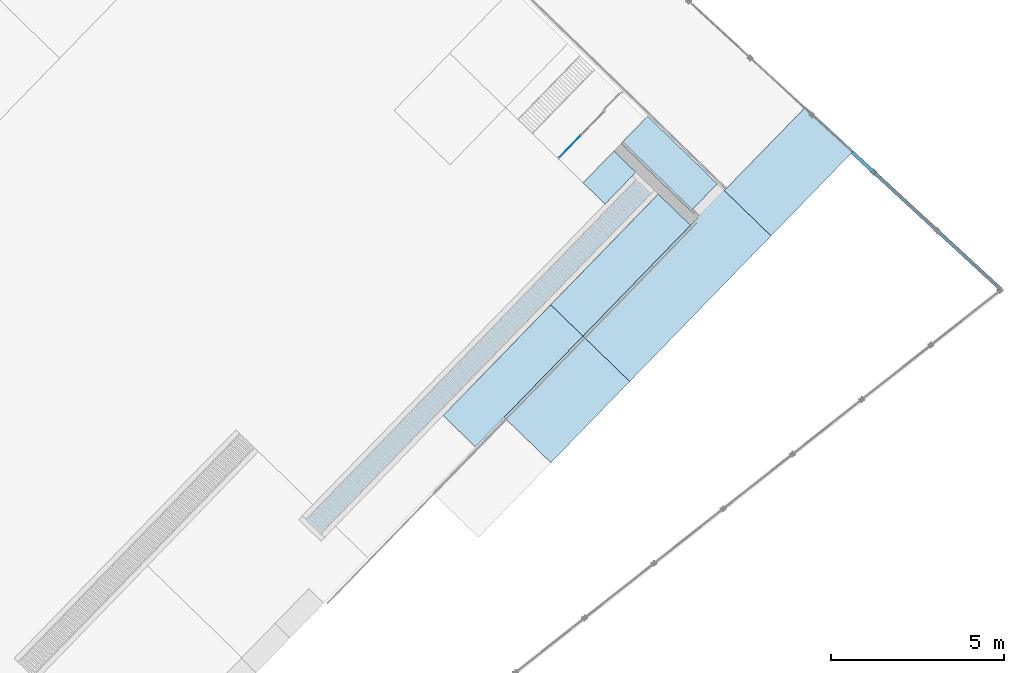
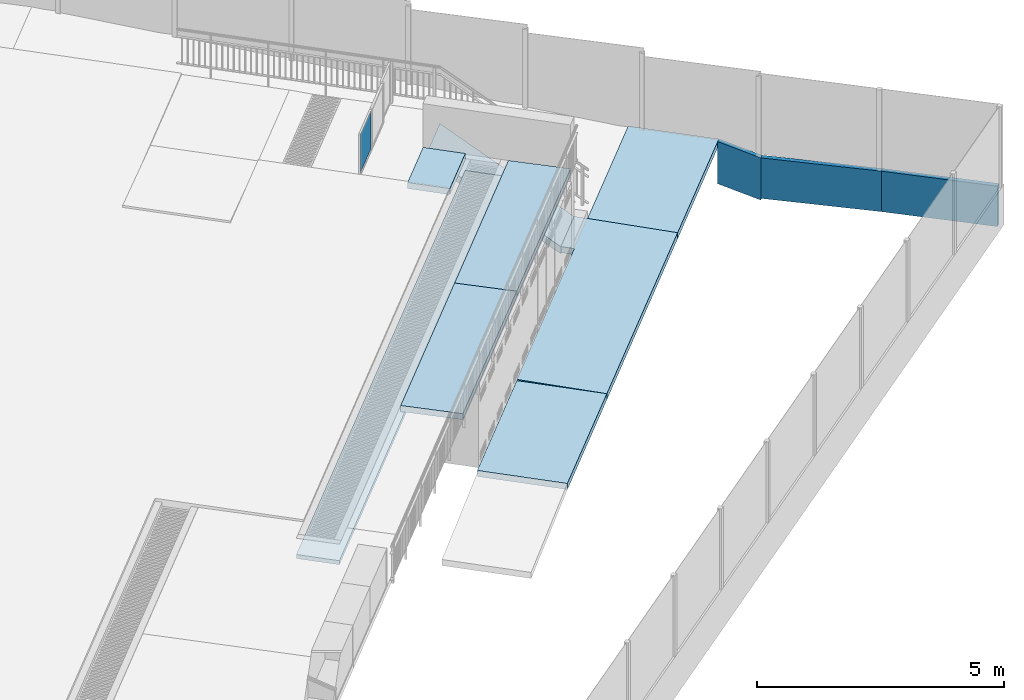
# One storey, part 17 of 37: 11 slabs, 1 plate, 1 element without a shape of its own.
"""IFC2X3 building model written with IfcOpenShell, lengths in centimetres."""

from ifc_helpers import new_model, entity, si_unit, converted_unit, derived_unit, direction, frame, frame_2d, origin, origin_2d_with_axis, place, context, subcontext, project, spatial, polyline, rectangle, outline, extrude, source, transform, mapped, material, layer, layer_set, layer_usage, type_object, type_shapes, element, aggregate, save


model = new_model("IFC2X3")

# Units and contexts
model_context = context("Model", 3, precision=0.001, world=origin(), true_north=direction((0.717475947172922, 0.696583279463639)))
body_context = subcontext(model_context, "Body", "Model", "MODEL_VIEW")
ifc_project = project(units=[si_unit("LENGTHUNIT", "METRE", prefix="CENTI"), si_unit("AREAUNIT", "SQUARE_METRE"), si_unit("VOLUMEUNIT", "CUBIC_METRE"), converted_unit("PLANEANGLEUNIT", "DEGREE", entity("IfcRatioMeasure", 0.0174532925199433), si_unit("PLANEANGLEUNIT", "RADIAN"), dimensions=[0, 0, 0, 0, 0, 0, 0]), si_unit("MASSUNIT", "GRAM", prefix="KILO"), derived_unit("MASSDENSITYUNIT", [(si_unit("MASSUNIT", "GRAM", prefix="KILO"), 1), (si_unit("LENGTHUNIT", "METRE"), -3)]), si_unit("TIMEUNIT", "SECOND"), si_unit("FREQUENCYUNIT", "HERTZ"), si_unit("THERMODYNAMICTEMPERATUREUNIT", "DEGREE_CELSIUS"), derived_unit("THERMALTRANSMITTANCEUNIT", [(si_unit("MASSUNIT", "GRAM", prefix="KILO"), 1), (si_unit("THERMODYNAMICTEMPERATUREUNIT", "KELVIN"), -1), (si_unit("TIMEUNIT", "SECOND"), -3)]), derived_unit("VOLUMETRICFLOWRATEUNIT", [(si_unit("LENGTHUNIT", "METRE"), 3), (si_unit("TIMEUNIT", "SECOND"), -1)]), si_unit("ELECTRICCURRENTUNIT", "AMPERE"), si_unit("ELECTRICVOLTAGEUNIT", "VOLT"), si_unit("POWERUNIT", "WATT"), si_unit("FORCEUNIT", "NEWTON", prefix="KILO"), si_unit("ILLUMINANCEUNIT", "LUX"), si_unit("LUMINOUSFLUXUNIT", "LUMEN"), si_unit("LUMINOUSINTENSITYUNIT", "CANDELA"), derived_unit("USERDEFINED", [(si_unit("MASSUNIT", "GRAM", prefix="KILO"), -1), (si_unit("LENGTHUNIT", "METRE"), -2), (si_unit("TIMEUNIT", "SECOND"), 3), (si_unit("LUMINOUSFLUXUNIT", "LUMEN"), 1)]), derived_unit("LINEARVELOCITYUNIT", [(si_unit("LENGTHUNIT", "METRE"), 1), (si_unit("TIMEUNIT", "SECOND"), -1)]), si_unit("PRESSUREUNIT", "PASCAL"), derived_unit("USERDEFINED", [(si_unit("LENGTHUNIT", "METRE"), -2), (si_unit("MASSUNIT", "GRAM", prefix="KILO"), 1), (si_unit("TIMEUNIT", "SECOND"), -2)])], contexts=[model_context])

# Site, building, storey
site_placement = place(None, frame((0.0, 0.0, 0.0), z_axis=(0.0, 0.0, 1.0), x_axis=(0.696583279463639, 0.717475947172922, 0.0)))
site = spatial("IfcSite", under=ifc_project, at=site_placement, Name="Surface", CompositionType="ELEMENT")
building_placement = place(site_placement, origin())
building = spatial("IfcBuilding", under=site, at=building_placement, CompositionType="ELEMENT")
storey_placement = place(building_placement, origin())
storey = spatial("IfcBuildingStorey", under=building, at=storey_placement, Name="Nivel 0.00", CompositionType="ELEMENT", Elevation=0.0)

# Curtain wall, plate
curtain_wall_type = type_object("IfcCurtainWallType", Name="Curtain Wall:REJA_BAJA_100mm", PredefinedType="NOTDEFINED")
curtain_wall_placement = place(storey_placement, origin())
curtain_wall = element("IfcCurtainWall", 1, at=curtain_wall_placement, inside=storey, type_object=curtain_wall_type, Name="Curtain Wall:REJA_BAJA_100mm", ObjectType="Curtain Wall:REJA_BAJA_100mm")
ifc_material_1 = material(Name="REJA_MALLA_ACMA")
plate_type = type_object("IfcPlateType", Name="MALLA ACMA", PredefinedType="CURTAIN_PANEL", material=ifc_material_1)
shared_shape = source(origin(), body_context, "Body", "SweptSolid", [
    extrude(rectangle(XDim=1.0, YDim=87.66747023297, at=origin_2d_with_axis()), frame((0.0, 0.0, 0.0), z_axis=(0.0, 0.0, 1.0), x_axis=(0.0, 1.0, 0.0)), (0.0, 0.0, 1.0), 94.0),
])
type_shapes(plate_type, [shared_shape])
plate_placement = place(curtain_wall_placement, frame((1581.38389901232, -1156.74407068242, 155.0), z_axis=(0.0, 0.0, 1.0), x_axis=(-1.0, 0.0, 0.0)))
plate = element("IfcPlate", 2, at=plate_placement, type_object=plate_type, material=ifc_material_1, Name="System Panel:MALLA ACMA", ObjectType="MALLA ACMA", context=body_context, shape_type="MappedRepresentation", body=[
    mapped(shared_shape, transform((0.0, 0.0, 0.0), scale=1.0)),
])
aggregate(curtain_wall, [plate])

# Slabs
ifc_material_2 = material(Name="<Unnamed>")
ifc_layer_1 = layer(ifc_material_2, 15.0)
ifc_layer_set_1 = layer_set([ifc_layer_1], Name="Pad:HORMIGON_EXTERIOR_150mm")
ifc_layer_usage_1 = layer_usage(ifc_layer_set_1, "AXIS3", "POSITIVE", 0.0)
slab_1_placement = place(storey_placement, frame((768.682598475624, -1565.30159447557, 134.998209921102)))
element("IfcSlab", 3, at=slab_1_placement, inside=storey, material=ifc_layer_usage_1, Name="Pad:HORMIGON_EXTERIOR_150mm", ObjectType="Pad:HORMIGON_EXTERIOR_150mm", PredefinedType="FLOOR", context=body_context, shape_type="SweptSolid", body=[
    extrude(rectangle(XDim=445.934909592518, YDim=129.850802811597, at=frame_2d((0.0, -64.9254014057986), x_axis=(-1.0, 0.0))), frame((222.967454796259, 129.835399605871, 15.001779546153), z_axis=(0.0, 0.0154022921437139, 0.99988137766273), x_axis=(1.0, 0.0, 0.0)), (0.0, 0.0154022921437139, -0.99988137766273), 15.001779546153),
])
ifc_layer_usage_2 = layer_usage(ifc_layer_set_1, "AXIS3", "POSITIVE", 0.0)
slab_2_placement = place(storey_placement, frame((1214.61750806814, -1565.30159447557, 134.998209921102)))
element("IfcSlab", 4, at=slab_2_placement, inside=storey, material=ifc_layer_usage_2, Name="Pad:HORMIGON_EXTERIOR_150mm", ObjectType="Pad:HORMIGON_EXTERIOR_150mm", PredefinedType="FLOOR", context=body_context, shape_type="SweptSolid", body=[
    extrude(rectangle(XDim=445.934908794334, YDim=129.850802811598, at=frame_2d((0.0, -64.9254014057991), x_axis=(-1.0, 0.0))), frame((222.967454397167, 129.835399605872, 15.001779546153), z_axis=(0.0, 0.0154022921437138, 0.99988137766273), x_axis=(1.0, 0.0, 0.0)), (0.0, 0.0154022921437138, -0.99988137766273), 15.001779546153),
])
ifc_layer_usage_3 = layer_usage(ifc_layer_set_1, "AXIS3", "POSITIVE", 0.0)
slab_3_placement = place(storey_placement, origin())
element("IfcSlab", 5, at=slab_3_placement, inside=storey, material=ifc_layer_usage_3, Name="Pad:HORMIGON_EXTERIOR_150mm", ObjectType="Pad:HORMIGON_EXTERIOR_150mm", PredefinedType="FLOOR", context=body_context, shape_type="SweptSolid", body=[
    extrude(rectangle(XDim=188.065472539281, YDim=326.856553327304, at=frame_2d((-2.1316282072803e-13, -5.6843418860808e-14), x_axis=(1.0, 0.0))), frame((1051.18923154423, -1659.33433074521, -84.0000105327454), z_axis=(0.0, 0.0, 1.0), x_axis=(0.0, 1.0, 0.0)), (0.0, 0.0, 1.0), 15.0),
])
ifc_layer_usage_4 = layer_usage(ifc_layer_set_1, "AXIS3", "POSITIVE", 0.0)
slab_4_placement = place(storey_placement, frame((1214.61750806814, -1753.3633159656, -84.0019189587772)))
element("IfcSlab", 6, at=slab_4_placement, inside=storey, material=ifc_layer_usage_4, Name="Pad:HORMIGON_EXTERIOR_150mm", ObjectType="Pad:HORMIGON_EXTERIOR_150mm", PredefinedType="FLOOR", context=body_context, shape_type="SweptSolid", body=[
    extrude(outline(polyline([(-305.936453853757, -188.085648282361), (280.0, -188.085648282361), (280.0, 27.9667246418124), (169.998571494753, 27.9667246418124), (169.998571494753, 0.0), (-305.936453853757, 0.0), (-305.936453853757, -188.085648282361)])), frame((305.936453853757, 188.061721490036, 18.0019084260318), z_axis=(0.0, -0.0159501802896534, 0.99987278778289), x_axis=(1.0, 0.0, 0.0)), (0.0, -0.0159501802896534, -0.99987278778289), 15.0019084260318),
])
ifc_layer_usage_5 = layer_usage(ifc_layer_set_1, "AXIS3", "POSITIVE", 0.0)
slab_5_placement = place(storey_placement, frame((1800.5539619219, -1753.3633159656, -84.0019190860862)))
element("IfcSlab", 7, at=slab_5_placement, inside=storey, material=ifc_layer_usage_5, Name="Pad:HORMIGON_EXTERIOR_150mm", ObjectType="Pad:HORMIGON_EXTERIOR_150mm", PredefinedType="FLOOR", context=body_context, shape_type="SweptSolid", body=[
    extrude(outline(polyline([(-160.838410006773, 0.0), (-160.838410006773, -188.079376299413), (180.693107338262, -188.079376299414), (175.843397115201, 0.0), (-160.838410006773, 0.0)])), frame((160.838410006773, 188.055448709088, 18.0019085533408), z_axis=(0.0, -0.0159507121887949, 0.999872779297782), x_axis=(1.0, 0.0, 0.0)), (0.0, -0.0159507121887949, -0.999872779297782), 15.0019085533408),
])
ifc_layer_usage_6 = layer_usage(ifc_layer_set_1, "AXIS3", "POSITIVE", 0.0)
slab_6_placement = place(storey_placement, origin())
element("IfcSlab", 8, at=slab_6_placement, inside=storey, material=ifc_layer_usage_6, Name="Pad:HORMIGON_EXTERIOR_150mm", ObjectType="Pad:HORMIGON_EXTERIOR_150mm", PredefinedType="FLOOR", context=body_context, shape_type="SweptSolid", body=[
    extrude(rectangle(XDim=128.002352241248, YDim=88.1586279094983, at=origin_2d_with_axis()), frame((1596.55134001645, -1301.38718120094, 136.999989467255)), (0.0, 0.0, 1.0), 15.0),
])
ifc_layer_usage_7 = layer_usage(ifc_layer_set_1, "AXIS3", "POSITIVE", 0.0)
slab_7_placement = place(storey_placement, frame((1690.55253341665, -1537.3384275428, -83.8805717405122)))
element("IfcSlab", 9, at=slab_7_placement, inside=storey, material=ifc_layer_usage_7, Name="Pad:HORMIGON_EXTERIOR_150mm", ObjectType="Pad:HORMIGON_EXTERIOR_150mm", PredefinedType="FLOOR", context=body_context, shape_type="SweptSolid", body=[
    extrude(rectangle(XDim=110.000029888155, YDim=334.296318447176, at=frame_2d((0.0, -167.148159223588), x_axis=(-1.0, 0.0))), frame((55.0000149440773, 0.0, 17.8805717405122), z_axis=(0.0, 0.544286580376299, -0.838899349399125), x_axis=(1.0, 0.0, 0.0)), (0.0, 0.544286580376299, 0.838899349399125), 17.8805717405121),
])
ifc_material_3 = material(Name="Concrete, Precast")
ifc_layer_2 = layer(ifc_material_3, 10.0)
ifc_layer_set_2 = layer_set([ifc_layer_2], Name="Floor:ARQ_LOSA_HOMRIGON_100mm")
ifc_layer_usage_8 = layer_usage(ifc_layer_set_2, "AXIS3", "POSITIVE", 0.0)
slab_8_placement = place(storey_placement, origin())
element("IfcSlab", 10, at=slab_8_placement, inside=storey, material=ifc_layer_usage_8, Name="Floor:ARQ_LOSA_HOMRIGON_100mm", ObjectType="Floor:ARQ_LOSA_HOMRIGON_100mm", PredefinedType="FLOOR", context=body_context, shape_type="SweptSolid", body=[
    extrude(rectangle(XDim=89.9911465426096, YDim=1397.80407940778, at=origin_2d_with_axis()), frame((961.650465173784, -1390.05043052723, 110.0), z_axis=(0.0, 0.0, -1.0), x_axis=(0.0, 1.0, 0.0)), (0.0, 0.0, 1.0), 10.0),
])
ifc_material_4 = material(Name="Concrete, Cast-in-Place gray")
ifc_layer_3 = layer(ifc_material_4, 100.0)
ifc_layer_set_3 = layer_set([ifc_layer_3], Name="Pad:HORMIGON_M.CONTEN_1000mm")
ifc_layer_usage_9 = layer_usage(ifc_layer_set_3, "AXIS3", "POSITIVE", 0.0)
slab_9_placement = place(storey_placement, frame((2132.08215452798, -1842.92730672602, -199.927463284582)))
element("IfcSlab", 11, at=slab_9_placement, inside=storey, material=ifc_layer_usage_9, Name="Pad:HORMIGON_M.CONTEN_1000mm", ObjectType="Pad:HORMIGON_M.CONTEN_1000mm", PredefinedType="FLOOR", context=body_context, shape_type="SweptSolid", body=[
    extrude(outline(polyline([(10.0033247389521, 0.0), (0.0, 0.0), (2.30974111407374, -93.4334016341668), (12.3064174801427, -93.1644623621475), (10.0033247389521, 0.0)])), frame((0.0, 89.5639907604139, 130.927463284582), z_axis=(0.0, -0.284801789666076, 0.958586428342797), x_axis=(1.0, 0.0, 0.0)), (0.0, -0.284801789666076, -0.958586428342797), 104.320275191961),
])
ifc_layer_usage_10 = layer_usage(ifc_layer_set_3, "AXIS3", "POSITIVE", 0.0)
slab_10_placement = place(storey_placement, frame((2134.39189564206, -2092.7258540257, -195.635198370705)))
element("IfcSlab", 12, at=slab_10_placement, inside=storey, material=ifc_layer_usage_10, Name="Pad:HORMIGON_M.CONTEN_1000mm", ObjectType="Pad:HORMIGON_M.CONTEN_1000mm", PredefinedType="FLOOR", context=body_context, shape_type="SweptSolid", body=[
    extrude(rectangle(XDim=10.0000016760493, YDim=249.944564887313, at=frame_2d((-8.21933118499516, -124.801833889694), x_axis=(-0.999667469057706, 0.0257866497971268))), frame((16.4386623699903, 0.257801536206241, 105.635198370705), z_axis=(0.0, -0.0224524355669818, -0.99974791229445), x_axis=(1.0, 0.0, 0.0)), (0.0, -0.0224524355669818, 0.99974791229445), 100.025215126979),
])
ifc_layer_usage_11 = layer_usage(ifc_layer_set_3, "AXIS3", "POSITIVE", 0.0)
slab_11_placement = place(storey_placement, origin())
element("IfcSlab", 13, at=slab_11_placement, inside=storey, material=ifc_layer_usage_11, Name="Pad:HORMIGON_M.CONTEN_1000mm", ObjectType="Pad:HORMIGON_M.CONTEN_1000mm", PredefinedType="FLOOR", context=body_context, shape_type="SweptSolid", body=[
    extrude(outline(polyline([(-5.0, -120.69184477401), (5.0, -120.69184477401), (5.0, 119.893281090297), (-5.0, 121.490408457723), (-5.0, -120.69184477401)])), frame((2148.94367412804, -2213.24868448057, -190.0), z_axis=(0.0, 0.0, 1.0), x_axis=(-0.999667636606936, -0.025780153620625, 0.0)), (0.0, 0.0, 1.0), 99.9999999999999),
])

save(model, "model.ifc")
